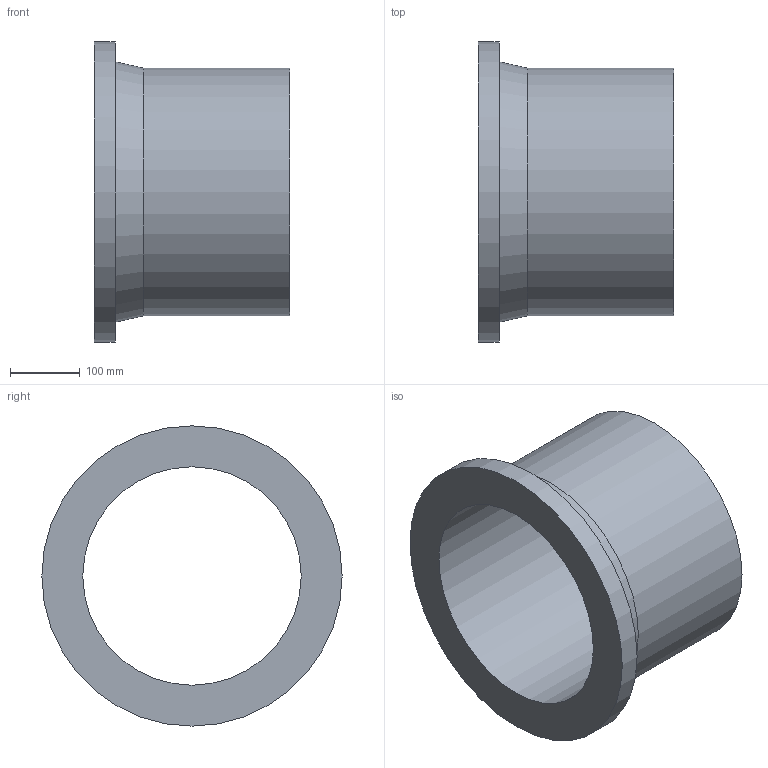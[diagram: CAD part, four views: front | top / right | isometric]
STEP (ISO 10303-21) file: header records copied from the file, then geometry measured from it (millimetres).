
FILE_DESCRIPTION(('Beschreibung'),'1');
FILE_NAME('V:/Ziel/25.80.01.063_SDR_17_PE100_355.STP', '2014-09-15T05:57:41',('Author'), ('Organization'), 'KCM Version 1.1.794.0', 'Kubotek KeyCreator', 'Authorization');
FILE_SCHEMA(('CONFIG_CONTROL_DESIGN'));
Length unit declared in the file: millimetre
Bounding box: 280 x 430 x 430 mm (x, y, z)
Volume: 7788711 mm3; surface area: 723226.3 mm2
Topology: 1 solids, 1 shells, 7 faces, 18 edges, 21 vertices
Faces by surface type: cylinder 3, plane 3, cone 1
Full cylindrical faces by diameter (mm): 312.8 x1, 355 x1, 430 x1
Entity records: 286 total; most frequent: DIRECTION 41, CARTESIAN_POINT 33, ORIENTED_EDGE 22, AXIS2_PLACEMENT_3D 15, EDGE_CURVE 11, VECTOR 11, LINE 11, EDGE_LOOP 10
